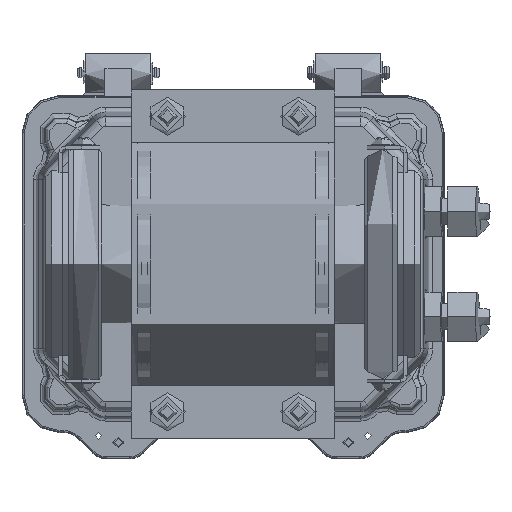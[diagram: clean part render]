
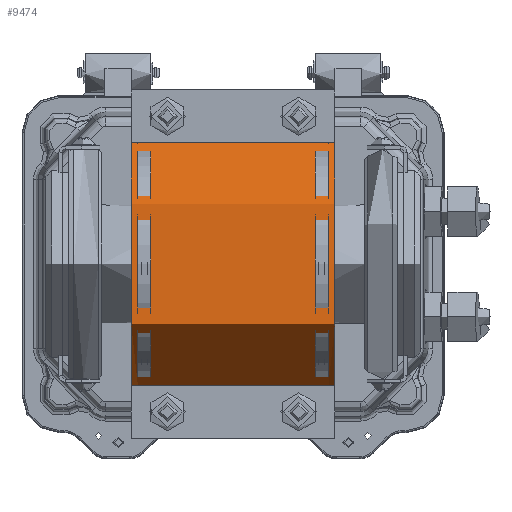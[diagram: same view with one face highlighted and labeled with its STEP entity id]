
A CAD part, front view. The second image highlights one B-rep face of the part: STEP entity #9474.
In plain terms, the highlighted cylindrical face has radius 37 mm (diameter 74 mm), a partial arc.
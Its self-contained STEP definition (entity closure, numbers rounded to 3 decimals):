
#9474=ADVANCED_FACE('',(#27505),#27507,.T.);
#27505=FACE_BOUND('',#27506,.T.);
#27506=EDGE_LOOP('',(#37562,#37563,#37564,#37565,#37566,#37567,#37568,#37569,#37570,
#37571));
#27507=CYLINDRICAL_SURFACE('',#27508,37.);
#27508=AXIS2_PLACEMENT_3D('',#27509,#27510,#27511);
#27509=CARTESIAN_POINT('',(31.,0.,-0.));
#27510=DIRECTION('',(-1.,0.,0.));
#27511=DIRECTION('',(0.,0.,-1.));
#37562=ORIENTED_EDGE('',*,*,#42471,.F.);
#37563=ORIENTED_EDGE('',*,*,#42472,.T.);
#37564=ORIENTED_EDGE('',*,*,#42473,.F.);
#37565=ORIENTED_EDGE('',*,*,#42436,.T.);
#37566=ORIENTED_EDGE('',*,*,#42359,.F.);
#37567=ORIENTED_EDGE('',*,*,#42474,.F.);
#37568=ORIENTED_EDGE('',*,*,#42351,.F.);
#37569=ORIENTED_EDGE('',*,*,#42446,.T.);
#37570=ORIENTED_EDGE('',*,*,#42475,.T.);
#37571=ORIENTED_EDGE('',*,*,#42476,.T.);
#42351=EDGE_CURVE('',#46620,#46622,#46623,.T.);
#42359=EDGE_CURVE('',#46634,#46636,#46637,.F.);
#42436=EDGE_CURVE('',#46760,#46636,#46761,.F.);
#42446=EDGE_CURVE('',#46620,#46776,#46778,.F.);
#42471=EDGE_CURVE('',#46697,#46670,#46817,.F.);
#42472=EDGE_CURVE('',#46697,#46818,#46819,.T.);
#42473=EDGE_CURVE('',#46760,#46818,#46820,.T.);
#42474=EDGE_CURVE('',#46622,#46634,#46821,.T.);
#42475=EDGE_CURVE('',#46776,#46822,#46823,.T.);
#42476=EDGE_CURVE('',#46822,#46670,#46824,.T.);
#46620=VERTEX_POINT('',#59939);
#46622=VERTEX_POINT('',#59943);
#46623=CIRCLE('',#59944,37.);
#46634=VERTEX_POINT('',#59970);
#46636=VERTEX_POINT('',#59974);
#46637=CIRCLE('',#59975,37.);
#46670=VERTEX_POINT('',#60059);
#46697=VERTEX_POINT('',#60122);
#46760=VERTEX_POINT('',#61770);
#46761=LINE('',#61771,#61772);
#46776=VERTEX_POINT('',#61804);
#46778=LINE('',#61808,#61809);
#46817=LINE('',#61985,#61986);
#46818=VERTEX_POINT('',#61988);
#46819=LINE('',#61989,#61990);
#46820=CIRCLE('',#61992,37.);
#46821=LINE('',#61996,#61997);
#46822=VERTEX_POINT('',#61999);
#46823=CIRCLE('',#62000,37.);
#46824=LINE('',#62004,#62005);
#59939=CARTESIAN_POINT('',(29.,-1.,-36.986));
#59943=CARTESIAN_POINT('',(29.,-2.,-36.946));
#59944=AXIS2_PLACEMENT_3D('',#59945,#59946,#59947);
#59945=CARTESIAN_POINT('',(29.,0.,0.));
#59946=DIRECTION('',(-1.,0.,-0.));
#59947=DIRECTION('',(0.,-0.027,-1.));
#59970=CARTESIAN_POINT('',(-29.,-2.,-36.946));
#59974=CARTESIAN_POINT('',(-29.,-1.,-36.986));
#59975=AXIS2_PLACEMENT_3D('',#59976,#59977,#59978);
#59976=CARTESIAN_POINT('',(-29.,0.,0.));
#59977=DIRECTION('',(-1.,0.,0.));
#59978=DIRECTION('',(0.,-0.027,-1.));
#60059=CARTESIAN_POINT('',(29.,-1.,36.986));
#60122=CARTESIAN_POINT('',(-29.,-1.,36.986));
#61770=CARTESIAN_POINT('',(-31.,-1.,-36.986));
#61771=CARTESIAN_POINT('',(-29.,-1.,-36.986));
#61772=VECTOR('',#61773,1.);
#61773=DIRECTION('',(-1.,0.,0.));
#61804=CARTESIAN_POINT('',(31.,-1.,-36.986));
#61808=CARTESIAN_POINT('',(31.,-1.,-36.986));
#61809=VECTOR('',#61810,1.);
#61810=DIRECTION('',(-1.,0.,0.));
#61985=CARTESIAN_POINT('',(29.,-1.,36.986));
#61986=VECTOR('',#61987,1.);
#61987=DIRECTION('',(-1.,0.,0.));
#61988=CARTESIAN_POINT('',(-31.,-1.,36.986));
#61989=CARTESIAN_POINT('',(-29.,-1.,36.986));
#61990=VECTOR('',#61991,1.);
#61991=DIRECTION('',(-1.,0.,0.));
#61992=AXIS2_PLACEMENT_3D('',#61993,#61994,#61995);
#61993=CARTESIAN_POINT('',(-31.,0.,0.));
#61994=DIRECTION('',(-1.,0.,0.));
#61995=DIRECTION('',(0.,-0.027,-1.));
#61996=CARTESIAN_POINT('',(29.,-2.,-36.946));
#61997=VECTOR('',#61998,1.);
#61998=DIRECTION('',(-1.,0.,0.));
#61999=CARTESIAN_POINT('',(31.,-1.,36.986));
#62000=AXIS2_PLACEMENT_3D('',#62001,#62002,#62003);
#62001=CARTESIAN_POINT('',(31.,0.,0.));
#62002=DIRECTION('',(-1.,0.,0.));
#62003=DIRECTION('',(0.,-0.027,-1.));
#62004=CARTESIAN_POINT('',(31.,-1.,36.986));
#62005=VECTOR('',#62006,1.);
#62006=DIRECTION('',(-1.,0.,0.));
